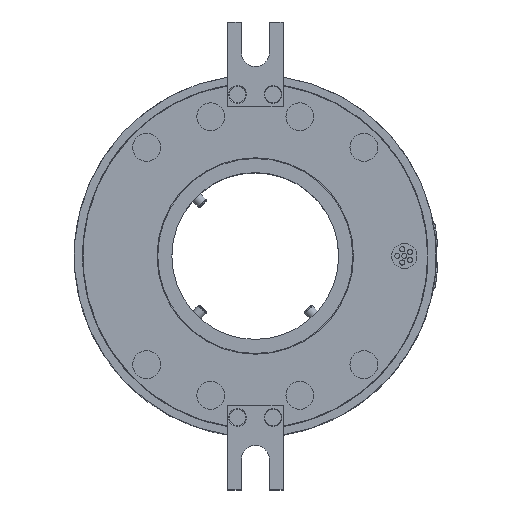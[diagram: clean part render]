
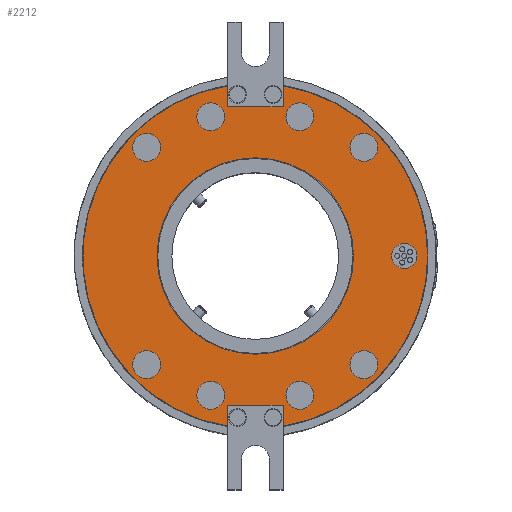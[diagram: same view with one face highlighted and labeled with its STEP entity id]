
A CAD part, top view. The second image highlights one B-rep face of the part: STEP entity #2212.
In plain terms, the highlighted planar face has unit normal (0, 0, 1).
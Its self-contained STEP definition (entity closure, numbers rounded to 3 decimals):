
#178=FACE_BOUND('',#3957,.T.);
#179=FACE_BOUND('',#3958,.T.);
#180=FACE_BOUND('',#3959,.T.);
#181=FACE_BOUND('',#3960,.T.);
#182=FACE_BOUND('',#3961,.T.);
#183=FACE_BOUND('',#3962,.T.);
#184=FACE_BOUND('',#3963,.T.);
#185=FACE_BOUND('',#3964,.T.);
#186=FACE_BOUND('',#3965,.T.);
#187=FACE_BOUND('',#3966,.T.);
#188=FACE_BOUND('',#3967,.T.);
#484=CIRCLE('',#13482,5.);
#485=CIRCLE('',#13483,5.);
#486=CIRCLE('',#13484,5.);
#487=CIRCLE('',#13485,5.);
#488=CIRCLE('',#13486,4.5);
#489=CIRCLE('',#13487,5.);
#490=CIRCLE('',#13488,5.);
#491=CIRCLE('',#13489,5.);
#492=CIRCLE('',#13490,5.);
#493=CIRCLE('',#13491,35.25);
#494=CIRCLE('',#13492,61.9);
#495=CIRCLE('',#13493,61.9);
#1037=LINE('',#24880,#1545);
#1038=LINE('',#24883,#1546);
#1039=LINE('',#24887,#1547);
#1040=LINE('',#24889,#1548);
#1041=LINE('',#24891,#1549);
#1042=LINE('',#24895,#1550);
#1545=VECTOR('',#14844,1.);
#1546=VECTOR('',#14845,1.);
#1547=VECTOR('',#14848,1.);
#1548=VECTOR('',#14849,1.);
#1549=VECTOR('',#14850,1.);
#1550=VECTOR('',#14853,1.);
#2212=ADVANCED_FACE('',(#178,#179,#180,#181,#182,#183,#184,#185,#186,#187,
#188),#2730,.T.);
#2730=PLANE('',#13494);
#3957=EDGE_LOOP('',(#6218));
#3958=EDGE_LOOP('',(#6219));
#3959=EDGE_LOOP('',(#6220));
#3960=EDGE_LOOP('',(#6221));
#3961=EDGE_LOOP('',(#6222));
#3962=EDGE_LOOP('',(#6223));
#3963=EDGE_LOOP('',(#6224));
#3964=EDGE_LOOP('',(#6225));
#3965=EDGE_LOOP('',(#6226));
#3966=EDGE_LOOP('',(#6227));
#3967=EDGE_LOOP('',(#6228,#6229,#6230,#6231,#6232,#6233,#6234,#6235));
#6218=ORIENTED_EDGE('',*,*,#10884,.T.);
#6219=ORIENTED_EDGE('',*,*,#10885,.T.);
#6220=ORIENTED_EDGE('',*,*,#10886,.T.);
#6221=ORIENTED_EDGE('',*,*,#10887,.T.);
#6222=ORIENTED_EDGE('',*,*,#10888,.T.);
#6223=ORIENTED_EDGE('',*,*,#10889,.T.);
#6224=ORIENTED_EDGE('',*,*,#10890,.T.);
#6225=ORIENTED_EDGE('',*,*,#10891,.T.);
#6226=ORIENTED_EDGE('',*,*,#10892,.T.);
#6227=ORIENTED_EDGE('',*,*,#10893,.T.);
#6228=ORIENTED_EDGE('',*,*,#10894,.T.);
#6229=ORIENTED_EDGE('',*,*,#10895,.T.);
#6230=ORIENTED_EDGE('',*,*,#10896,.F.);
#6231=ORIENTED_EDGE('',*,*,#10897,.T.);
#6232=ORIENTED_EDGE('',*,*,#10898,.T.);
#6233=ORIENTED_EDGE('',*,*,#10899,.T.);
#6234=ORIENTED_EDGE('',*,*,#10900,.F.);
#6235=ORIENTED_EDGE('',*,*,#10901,.T.);
#9176=VERTEX_POINT('',#24861);
#9177=VERTEX_POINT('',#24863);
#9178=VERTEX_POINT('',#24865);
#9179=VERTEX_POINT('',#24867);
#9180=VERTEX_POINT('',#24869);
#9181=VERTEX_POINT('',#24871);
#9182=VERTEX_POINT('',#24873);
#9183=VERTEX_POINT('',#24875);
#9184=VERTEX_POINT('',#24877);
#9185=VERTEX_POINT('',#24879);
#9186=VERTEX_POINT('',#24881);
#9187=VERTEX_POINT('',#24882);
#9188=VERTEX_POINT('',#24884);
#9189=VERTEX_POINT('',#24886);
#9190=VERTEX_POINT('',#24888);
#9191=VERTEX_POINT('',#24890);
#9192=VERTEX_POINT('',#24892);
#9193=VERTEX_POINT('',#24894);
#10884=EDGE_CURVE('',#9176,#9176,#484,.T.);
#10885=EDGE_CURVE('',#9177,#9177,#485,.T.);
#10886=EDGE_CURVE('',#9178,#9178,#486,.T.);
#10887=EDGE_CURVE('',#9179,#9179,#487,.T.);
#10888=EDGE_CURVE('',#9180,#9180,#488,.T.);
#10889=EDGE_CURVE('',#9181,#9181,#489,.T.);
#10890=EDGE_CURVE('',#9182,#9182,#490,.T.);
#10891=EDGE_CURVE('',#9183,#9183,#491,.T.);
#10892=EDGE_CURVE('',#9184,#9184,#492,.T.);
#10893=EDGE_CURVE('',#9185,#9185,#493,.T.);
#10894=EDGE_CURVE('',#9186,#9187,#1037,.T.);
#10895=EDGE_CURVE('',#9187,#9188,#1038,.T.);
#10896=EDGE_CURVE('',#9189,#9188,#494,.T.);
#10897=EDGE_CURVE('',#9189,#9190,#1039,.T.);
#10898=EDGE_CURVE('',#9190,#9191,#1040,.T.);
#10899=EDGE_CURVE('',#9191,#9192,#1041,.T.);
#10900=EDGE_CURVE('',#9193,#9192,#495,.T.);
#10901=EDGE_CURVE('',#9193,#9186,#1042,.T.);
#13482=AXIS2_PLACEMENT_3D('',#24860,#14824,#14825);
#13483=AXIS2_PLACEMENT_3D('',#24862,#14826,#14827);
#13484=AXIS2_PLACEMENT_3D('',#24864,#14828,#14829);
#13485=AXIS2_PLACEMENT_3D('',#24866,#14830,#14831);
#13486=AXIS2_PLACEMENT_3D('',#24868,#14832,#14833);
#13487=AXIS2_PLACEMENT_3D('',#24870,#14834,#14835);
#13488=AXIS2_PLACEMENT_3D('',#24872,#14836,#14837);
#13489=AXIS2_PLACEMENT_3D('',#24874,#14838,#14839);
#13490=AXIS2_PLACEMENT_3D('',#24876,#14840,#14841);
#13491=AXIS2_PLACEMENT_3D('',#24878,#14842,#14843);
#13492=AXIS2_PLACEMENT_3D('',#24885,#14846,#14847);
#13493=AXIS2_PLACEMENT_3D('',#24893,#14851,#14852);
#13494=AXIS2_PLACEMENT_3D('',#24896,#14854,#14855);
#14824=DIRECTION('',(0.,0.,-1.));
#14825=DIRECTION('',(1.,0.,0.));
#14826=DIRECTION('',(0.,0.,-1.));
#14827=DIRECTION('',(1.,0.,0.));
#14828=DIRECTION('',(0.,0.,-1.));
#14829=DIRECTION('',(1.,0.,0.));
#14830=DIRECTION('',(0.,0.,-1.));
#14831=DIRECTION('',(1.,0.,0.));
#14832=DIRECTION('',(0.,0.,-1.));
#14833=DIRECTION('',(1.,0.,0.));
#14834=DIRECTION('',(0.,0.,-1.));
#14835=DIRECTION('',(1.,0.,0.));
#14836=DIRECTION('',(0.,0.,-1.));
#14837=DIRECTION('',(1.,0.,0.));
#14838=DIRECTION('',(0.,0.,-1.));
#14839=DIRECTION('',(1.,0.,0.));
#14840=DIRECTION('',(0.,0.,-1.));
#14841=DIRECTION('',(1.,0.,0.));
#14842=DIRECTION('',(0.,0.,-1.));
#14843=DIRECTION('',(1.,0.,0.));
#14844=DIRECTION('',(-1.,0.,0.));
#14845=DIRECTION('',(0.,1.,0.));
#14846=DIRECTION('',(0.,0.,-1.));
#14847=DIRECTION('',(1.,0.,0.));
#14848=DIRECTION('',(0.,1.,0.));
#14849=DIRECTION('',(1.,0.,0.));
#14850=DIRECTION('',(0.,-1.,0.));
#14851=DIRECTION('',(0.,0.,-1.));
#14852=DIRECTION('',(1.,0.,0.));
#14853=DIRECTION('',(0.,-1.,0.));
#14854=DIRECTION('',(0.,0.,1.));
#14855=DIRECTION('',(1.,0.,0.));
#24860=CARTESIAN_POINT('',(-39.,39.,86.5));
#24861=CARTESIAN_POINT('',(-34.,39.,86.5));
#24862=CARTESIAN_POINT('',(-16.,50.,86.5));
#24863=CARTESIAN_POINT('',(-11.,50.,86.5));
#24864=CARTESIAN_POINT('',(16.,50.,86.5));
#24865=CARTESIAN_POINT('',(21.,50.,86.5));
#24866=CARTESIAN_POINT('',(39.,39.,86.5));
#24867=CARTESIAN_POINT('',(44.,39.,86.5));
#24868=CARTESIAN_POINT('',(53.5,0.,86.5));
#24869=CARTESIAN_POINT('',(58.,0.,86.5));
#24870=CARTESIAN_POINT('',(39.,-39.,86.5));
#24871=CARTESIAN_POINT('',(44.,-39.,86.5));
#24872=CARTESIAN_POINT('',(16.,-50.,86.5));
#24873=CARTESIAN_POINT('',(21.,-50.,86.5));
#24874=CARTESIAN_POINT('',(-16.,-50.,86.5));
#24875=CARTESIAN_POINT('',(-11.,-50.,86.5));
#24876=CARTESIAN_POINT('',(-39.,-39.,86.5));
#24877=CARTESIAN_POINT('',(-34.,-39.,86.5));
#24878=CARTESIAN_POINT('',(0.,0.,86.5));
#24879=CARTESIAN_POINT('',(35.25,0.,86.5));
#24880=CARTESIAN_POINT('',(10.,53.5,86.5));
#24881=CARTESIAN_POINT('',(10.,53.5,86.5));
#24882=CARTESIAN_POINT('',(-10.,53.5,86.5));
#24883=CARTESIAN_POINT('',(-10.,53.5,86.5));
#24884=CARTESIAN_POINT('',(-10.,61.087,86.5));
#24885=CARTESIAN_POINT('',(0.,0.,
86.5));
#24886=CARTESIAN_POINT('',(-10.,-61.087,86.5));
#24887=CARTESIAN_POINT('',(-10.,-84.,86.5));
#24888=CARTESIAN_POINT('',(-10.,-53.5,86.5));
#24889=CARTESIAN_POINT('',(-10.,-53.5,86.5));
#24890=CARTESIAN_POINT('',(10.,-53.5,86.5));
#24891=CARTESIAN_POINT('',(10.,-53.5,86.5));
#24892=CARTESIAN_POINT('',(10.,-61.087,86.5));
#24893=CARTESIAN_POINT('',(0.,0.,
86.5));
#24894=CARTESIAN_POINT('',(10.,61.087,86.5));
#24895=CARTESIAN_POINT('',(10.,84.,86.5));
#24896=CARTESIAN_POINT('',(0.,0.,
86.5));
